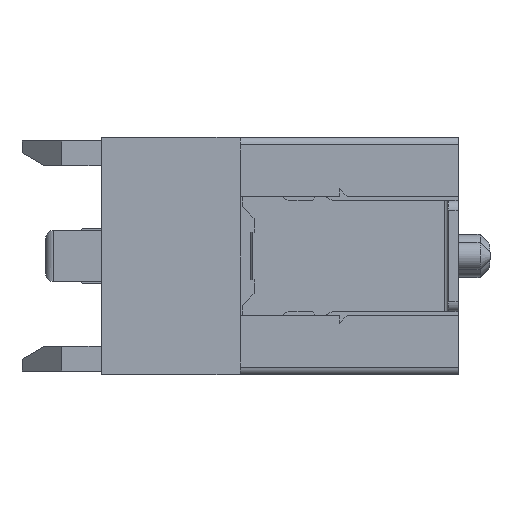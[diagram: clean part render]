
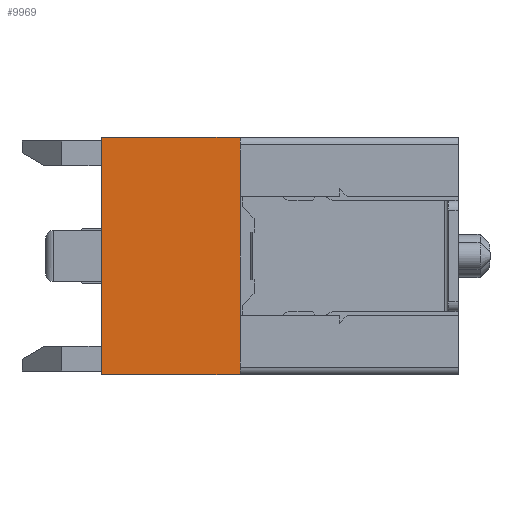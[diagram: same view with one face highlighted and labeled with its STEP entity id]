
A CAD part, left-side view. The second image highlights one B-rep face of the part: STEP entity #9969.
In plain terms, the highlighted planar face has unit normal (-1, 0, 0).
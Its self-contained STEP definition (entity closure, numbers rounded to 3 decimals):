
#93 = EDGE_CURVE ( 'NONE', #6778, #2572, #22950, .T. ) ;
#1032 = LINE ( 'NONE', #7963, #7517 ) ;
#1791 = CARTESIAN_POINT ( 'NONE',  ( -26.55, 5.5, 3. ) ) ;
#2572 = VERTEX_POINT ( 'NONE', #1791 ) ;
#2776 = CARTESIAN_POINT ( 'NONE',  ( -26.55, 5.5, 3. ) ) ;
#3156 = LINE ( 'NONE', #2776, #6153 ) ;
#3763 = EDGE_LOOP ( 'NONE', ( #8904, #25369, #12262, #25287 ) ) ;
#5768 = VECTOR ( 'NONE', #19466, 1000. ) ;
#6153 = VECTOR ( 'NONE', #40478, 1000. ) ;
#6778 = VERTEX_POINT ( 'NONE', #19498 ) ;
#7517 = VECTOR ( 'NONE', #19300, 1000. ) ;
#7802 = DIRECTION ( 'NONE',  ( 1., 0., 0. ) ) ;
#7963 = CARTESIAN_POINT ( 'NONE',  ( -26.55, 9., -9.338 ) ) ;
#8327 = EDGE_CURVE ( 'NONE', #6778, #12645, #33456, .T. ) ;
#8904 = ORIENTED_EDGE ( 'NONE', *, *, #93, .T. ) ;
#9969 = ADVANCED_FACE ( 'NONE', ( #38002 ), #41539, .F. ) ;
#12262 = ORIENTED_EDGE ( 'NONE', *, *, #13367, .F. ) ;
#12645 = VERTEX_POINT ( 'NONE', #37171 ) ;
#12878 = VECTOR ( 'NONE', #36109, 1000. ) ;
#13367 = EDGE_CURVE ( 'NONE', #12645, #27735, #1032, .T. ) ;
#15506 = EDGE_CURVE ( 'NONE', #2572, #27735, #3156, .T. ) ;
#18997 = DIRECTION ( 'NONE',  ( 0., 0., -1. ) ) ;
#19300 = DIRECTION ( 'NONE',  ( 0., 0., 1. ) ) ;
#19466 = DIRECTION ( 'NONE',  ( 0., 1., 0. ) ) ;
#19498 = CARTESIAN_POINT ( 'NONE',  ( -26.55, 5.5, -3. ) ) ;
#21744 = CARTESIAN_POINT ( 'NONE',  ( -26.55, 9., 3. ) ) ;
#22950 = LINE ( 'NONE', #39735, #12878 ) ;
#25287 = ORIENTED_EDGE ( 'NONE', *, *, #8327, .F. ) ;
#25369 = ORIENTED_EDGE ( 'NONE', *, *, #15506, .T. ) ;
#26407 = CARTESIAN_POINT ( 'NONE',  ( -26.55, 5.5, -3. ) ) ;
#27735 = VERTEX_POINT ( 'NONE', #21744 ) ;
#33456 = LINE ( 'NONE', #26407, #5768 ) ;
#36109 = DIRECTION ( 'NONE',  ( 0., 0., 1. ) ) ;
#37171 = CARTESIAN_POINT ( 'NONE',  ( -26.55, 9., -3. ) ) ;
#37615 = CARTESIAN_POINT ( 'NONE',  ( -26.55, 5.5, -9.338 ) ) ;
#38002 = FACE_OUTER_BOUND ( 'NONE', #3763, .T. ) ;
#39735 = CARTESIAN_POINT ( 'NONE',  ( -26.55, 5.5, -9.338 ) ) ;
#40478 = DIRECTION ( 'NONE',  ( 0., 1., 0. ) ) ;
#41539 = PLANE ( 'NONE',  #43153 ) ;
#43153 = AXIS2_PLACEMENT_3D ( 'NONE', #37615, #7802, #18997 ) ;
